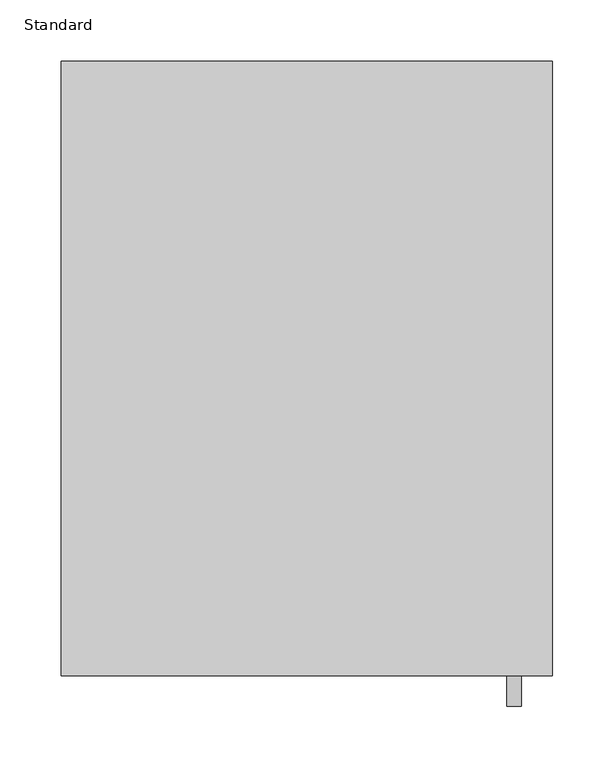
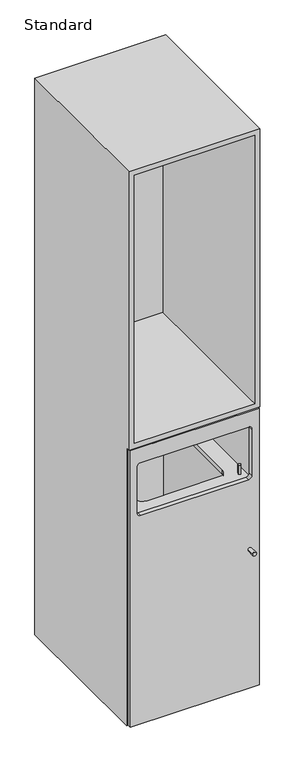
"""IFC4 building model written with IfcOpenShell, lengths in millimetres: furniture geometry, X_Locker-Duracube-EOT Bay : Standard."""

from ifc_helpers import new_model, si_unit, point, frame, frame_2d, origin, place, context, project, spatial, polyline, circle_curve, trimmed, segment, composite_curve, outline, extrude, faceted_brep, source, transform, mapped, element, save


def standard_7234d687(model_context):
    return source(origin(), model_context, "Body", "SolidModel", [
        extrude(outline(composite_curve([segment(trimmed(circle_curve(frame_2d((450.0, 213.7003264)), 6.0), [point((450.0, 207.7003264))], [point((450.0, 219.7003264))], False, "CARTESIAN"), True, "CONTINUOUS"), segment(trimmed(circle_curve(frame_2d((450.0, 213.7003264)), 6.0), [point((450.0, 219.7003264))], [point((450.0, 207.7003264))], False, "CARTESIAN"), True, "CONTINUOUS")], self_intersect=False)), frame((0.0, -525.0, 0.0), z_axis=(0.0, 1.0, 0.0), x_axis=(0.0, 0.0, 1.0)), (0.0, 0.0, 1.0), 25.0),
        faceted_brep([(-155.2996736, -500.0, 900.0), (244.7003264, -500.0, 900.0), (244.7003264, -500.0, 1800.0), (-155.2996736, -500.0, 1800.0), (-139.2996736, -500.0, 916.0), (-139.2996736, -500.0, 1784.0), (228.7003264, -500.0, 1784.0), (228.7003264, -500.0, 916.0), (-155.2996736, -487.0, 900.0), (-139.2996736, -487.0, 900.0), (-139.2996736, 0.0, 900.0), (228.7003264, 0.0, 900.0), (228.7003264, -487.0, 900.0), (244.7003264, -487.0, 900.0), (244.7003264, 0.0, 0.0), (244.7003264, 0.0, 1800.0), (244.7003264, -487.0, 0.0), (-155.2996736, 0.0, 1800.0), (-155.2996736, 0.0, 0.0), (-155.2996736, -487.0, 0.0), (-139.2996736, 0.0, 916.0), (-139.2996736, 0.0, 1784.0), (228.7003264, 0.0, 1784.0), (228.7003264, 0.0, 916.0), (-139.2996736, 0.0, 16.0), (228.7003264, 0.0, 16.0), (-139.2996736, -487.0, 16.0), (228.7003264, -487.0, 16.0)], [[[0, 1, 2, 3], [4, 5, 6, 7]], [[1, 0, 8, 9, 10, 11, 12, 13]], [[14, 15, 2, 1, 13, 16]], [[3, 17, 18, 19, 8, 0]], [[5, 4, 20, 21]], [[7, 6, 22, 23]], [[4, 7, 23, 20]], [[17, 15, 14, 18], [11, 10, 24, 25], [23, 22, 21, 20]], [[16, 19, 18, 14]], [[9, 26, 24, 10]], [[26, 27, 25, 24]], [[27, 12, 11, 25]], [[8, 19, 16, 13, 12, 27, 26, 9]], [[6, 5, 21, 22]], [[3, 2, 15, 17]]]),
        extrude(outline(polyline([(228.7003264, -13.0), (-139.2996736, -13.0), (-139.2996736, 0.0), (228.7003264, 0.0), (228.7003264, -13.0)])), frame((0.0, 0.0, 916.0), z_axis=(0.0, 0.0, 1.0), x_axis=(1.0, 0.0, 0.0)), (0.0, 0.0, 1.0), 868.0),
        extrude(outline(composite_curve([segment(trimmed(circle_curve(frame_2d((-120.2996736, -35.0)), 4.0), [point((-124.2996736, -35.0))], [point((-116.2996736, -35.0))], False, "CARTESIAN"), True, "CONTINUOUS"), segment(trimmed(circle_curve(frame_2d((-120.2996736, -35.0)), 4.0), [point((-116.2996736, -35.0))], [point((-124.2996736, -35.0))], False, "CARTESIAN"), True, "CONTINUOUS")], self_intersect=False)), frame((0.0, 0.0, 667.0), z_axis=(0.0, 0.0, 1.0), x_axis=(1.0, 0.0, 0.0)), (0.0, 0.0, 1.0), 30.0),
        extrude(outline(composite_curve([segment(trimmed(circle_curve(frame_2d((209.7003264, -35.0)), 4.0), [point((205.7003264, -35.0))], [point((213.7003264, -35.0))], False, "CARTESIAN"), True, "CONTINUOUS"), segment(trimmed(circle_curve(frame_2d((209.7003264, -35.0)), 4.0), [point((213.7003264, -35.0))], [point((205.7003264, -35.0))], False, "CARTESIAN"), True, "CONTINUOUS")], self_intersect=False)), frame((0.0, 0.0, 667.0), z_axis=(0.0, 0.0, 1.0), x_axis=(1.0, 0.0, 0.0)), (0.0, 0.0, 1.0), 30.0),
        extrude(outline(composite_curve([segment(trimmed(circle_curve(frame_2d((-120.2996736, -452.0)), 4.0), [point((-124.2996736, -452.0))], [point((-116.2996736, -452.0))], False, "CARTESIAN"), True, "CONTINUOUS"), segment(trimmed(circle_curve(frame_2d((-120.2996736, -452.0)), 4.0), [point((-116.2996736, -452.0))], [point((-124.2996736, -452.0))], False, "CARTESIAN"), True, "CONTINUOUS")], self_intersect=False)), frame((0.0, 0.0, 667.0), z_axis=(0.0, 0.0, 1.0), x_axis=(1.0, 0.0, 0.0)), (0.0, 0.0, 1.0), 30.0),
        extrude(outline(composite_curve([segment(trimmed(circle_curve(frame_2d((209.7003264, -452.0)), 4.0), [point((205.7003264, -452.0))], [point((213.7003264, -452.0))], False, "CARTESIAN"), True, "CONTINUOUS"), segment(trimmed(circle_curve(frame_2d((209.7003264, -452.0)), 4.0), [point((213.7003264, -452.0))], [point((205.7003264, -452.0))], False, "CARTESIAN"), True, "CONTINUOUS")], self_intersect=False)), frame((0.0, 0.0, 667.0), z_axis=(0.0, 0.0, 1.0), x_axis=(1.0, 0.0, 0.0)), (0.0, 0.0, 1.0), 30.0),
        extrude(outline(polyline([(228.7003264, -16.0), (228.7003264, -487.0), (-139.2996736, -487.0), (-139.2996736, -16.0), (228.7003264, -16.0)]), holes=[composite_curve([segment(polyline([(153.7003264, -66.0), (-64.2996736, -66.0)]), True, "CONTINUOUS"), segment(trimmed(circle_curve(frame_2d((-64.2996736, -91.0)), 25.0), [point((-64.2996736, -66.0))], [point((-89.2996736, -91.0))], True, "CARTESIAN"), True, "CONTINUOUS"), segment(polyline([(-89.2996736, -91.0), (-89.2996736, -412.0)]), True, "CONTINUOUS"), segment(trimmed(circle_curve(frame_2d((-64.2996736, -412.0)), 25.0), [point((-89.2996736, -412.0))], [point((-64.2996736, -437.0))], True, "CARTESIAN"), True, "CONTINUOUS"), segment(polyline([(-64.2996736, -437.0), (153.7003264, -437.0)]), True, "CONTINUOUS"), segment(trimmed(circle_curve(frame_2d((153.7003264, -412.0)), 25.0), [point((153.7003264, -437.0))], [point((178.7003264, -412.0))], True, "CARTESIAN"), True, "CONTINUOUS"), segment(polyline([(178.7003264, -412.0), (178.7003264, -91.0)]), True, "CONTINUOUS"), segment(trimmed(circle_curve(frame_2d((153.7003264, -91.0)), 25.0), [point((178.7003264, -91.0))], [point((153.7003264, -66.0))], True, "CARTESIAN"), True, "CONTINUOUS")], self_intersect=False)]), frame((0.0, 0.0, 654.0), z_axis=(0.0, 0.0, 1.0), x_axis=(1.0, 0.0, 0.0)), (0.0, 0.0, 1.0), 13.0),
        extrude(outline(polyline([(897.0, 241.7003264), (897.0, -152.2996736), (3.0, -152.2996736), (3.0, 241.7003264), (897.0, 241.7003264)]), holes=[composite_curve([segment(trimmed(circle_curve(frame_2d((837.0, 209.7003264)), 10.0), [point((847.0, 209.7003264))], [point((837.0, 219.7003264))], True, "CARTESIAN"), True, "CONTINUOUS"), segment(polyline([(837.0, 219.7003264), (687.0, 219.7003264)]), True, "CONTINUOUS"), segment(trimmed(circle_curve(frame_2d((687.0, 209.7003264)), 10.0), [point((687.0, 219.7003264))], [point((677.0, 209.7003264))], True, "CARTESIAN"), True, "CONTINUOUS"), segment(polyline([(677.0, 209.7003264), (677.0, -120.2996736)]), True, "CONTINUOUS"), segment(trimmed(circle_curve(frame_2d((687.0, -120.2996736)), 10.0), [point((677.0, -120.2996736))], [point((687.0, -130.2996736))], True, "CARTESIAN"), True, "CONTINUOUS"), segment(polyline([(687.0, -130.2996736), (837.0, -130.2996736)]), True, "CONTINUOUS"), segment(trimmed(circle_curve(frame_2d((837.0, -120.2996736)), 10.0), [point((837.0, -130.2996736))], [point((847.0, -120.2996736))], True, "CARTESIAN"), True, "CONTINUOUS"), segment(polyline([(847.0, -120.2996736), (847.0, 209.7003264)]), True, "CONTINUOUS")], self_intersect=False)]), frame((0.0, -500.0, 0.0), z_axis=(0.0, 1.0, 0.0), x_axis=(0.0, 0.0, 1.0)), (0.0, 0.0, 1.0), 13.0),
        extrude(outline(polyline([(228.7003264, -16.0), (-139.2996736, -16.0), (-139.2996736, 0.0), (228.7003264, 0.0), (228.7003264, -16.0)])), frame((0.0, 0.0, 16.0), z_axis=(0.0, 0.0, 1.0), x_axis=(1.0, 0.0, 0.0)), (0.0, 0.0, 1.0), 884.0),
    ])


if __name__ == "__main__":
    model = new_model("IFC4")
    model_context = context("Model", 3, world=origin())
    ifc_project = project(units=[si_unit("LENGTHUNIT", "METRE", prefix="MILLI")], contexts=[model_context])
    site = spatial("IfcSite", under=ifc_project)
    building = spatial("IfcBuilding", under=site)
    placement = place(None, origin())
    standard_shape = standard_7234d687(model_context)
    element("IfcFurniture", 1, ObjectType="X_Locker-Duracube-EOT Bay : Standard", at=placement, inside=building, context=model_context, shape_type="MappedRepresentation", body=[
        mapped(standard_shape, transform((0.0, 0.0, 0.0), x_axis=(1.0, 0.0, 0.0), y_axis=(0.0, 1.0, 0.0), z_axis=(0.0, 0.0, 1.0))),
    ])
    save(model, "model.ifc")
